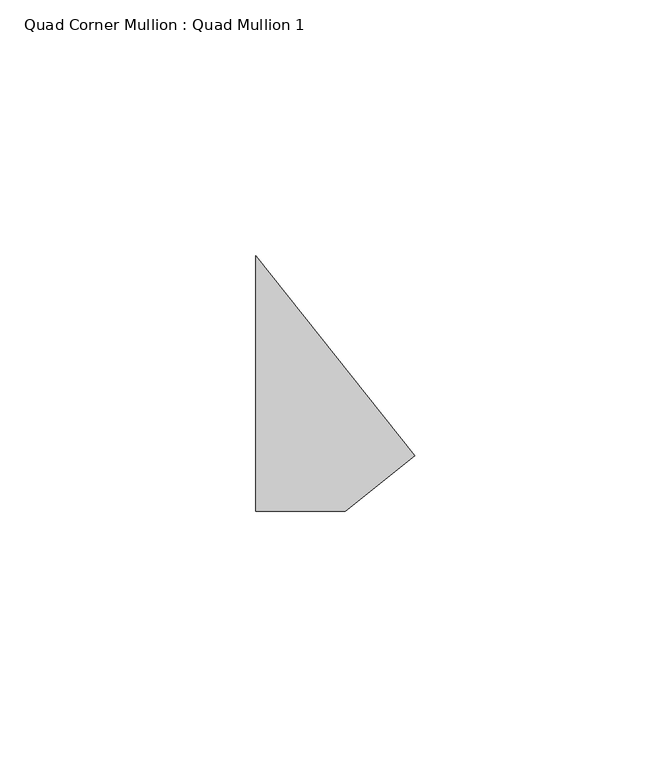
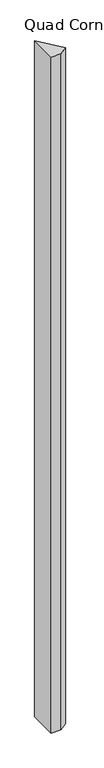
"""IFC4 building model written with IfcOpenShell, lengths in millimetres: member geometry, Quad Corner Mullion : Quad Mullion 1."""

from ifc_helpers import new_model, si_unit, frame, origin, place, context, project, spatial, polyline, outline, extrude, source, transform, mapped, element, save


def quad_corner_mullion_quad_mullion_1_187191e1(model_context):
    return source(origin(), model_context, "Body", "SweptSolid", [
        extrude(outline(polyline([(22.4169637, -14.1035695), (8.7424787, -25.0), (-8.7424787, -25.0), (-8.7424787, 25.0), (22.4169637, -14.1035695)])), frame((0.0, 0.0, -1250.0), z_axis=(0.0, 0.0, 1.0), x_axis=(1.0, 0.0, 0.0)), (0.0, 0.0, 1.0), 1250.0),
    ])


if __name__ == "__main__":
    model = new_model("IFC4")
    model_context = context("Model", 3, world=origin())
    ifc_project = project(units=[si_unit("LENGTHUNIT", "METRE", prefix="MILLI")], contexts=[model_context])
    site = spatial("IfcSite", under=ifc_project)
    building = spatial("IfcBuilding", under=site)
    placement = place(None, origin())
    quad_corner_mullion_quad_mullion_1_shape = quad_corner_mullion_quad_mullion_1_187191e1(model_context)
    element("IfcMember", 1, ObjectType="Quad Corner Mullion : Quad Mullion 1", at=placement, inside=building, context=model_context, shape_type="MappedRepresentation", body=[
        mapped(quad_corner_mullion_quad_mullion_1_shape, transform((0.0, 0.0, 0.0), x_axis=(1.0, 0.0, 0.0), y_axis=(0.0, 1.0, 0.0), z_axis=(0.0, 0.0, 1.0))),
    ])
    save(model, "model.ifc")
